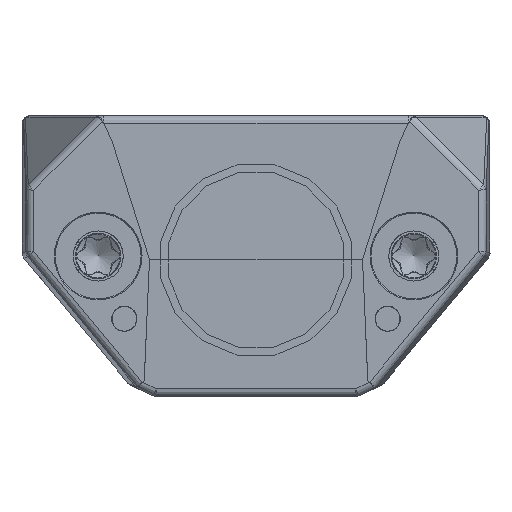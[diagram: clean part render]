
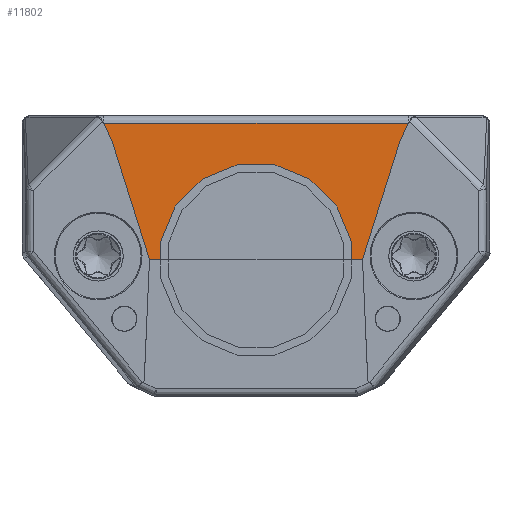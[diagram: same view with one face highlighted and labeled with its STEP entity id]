
A CAD part, front view. The second image highlights one B-rep face of the part: STEP entity #11802.
In plain terms, the highlighted planar face has unit normal (0, -1, 0.009).
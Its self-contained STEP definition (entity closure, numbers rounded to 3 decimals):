
#636=PLANE('',#12568);
#1062=FACE_OUTER_BOUND('',#1718,.T.);
#1718=EDGE_LOOP('',(#8220,#8221,#8222,#8223,#8224,#8225,#8226,#8227,#8228,
#8229,#8230,#8231,#8232,#8233,#8234,#8235));
#2410=LINE('',#21840,#3389);
#2412=LINE('',#21844,#3391);
#2414=LINE('',#21848,#3393);
#2416=LINE('',#21852,#3395);
#2418=LINE('',#21856,#3397);
#2420=LINE('',#21860,#3399);
#2422=LINE('',#21864,#3401);
#2424=LINE('',#21868,#3403);
#2427=LINE('',#21873,#3406);
#2445=LINE('',#21909,#3424);
#2448=LINE('',#21913,#3427);
#2451=LINE('',#21919,#3430);
#2456=LINE('',#21928,#3435);
#2457=LINE('',#21930,#3436);
#2458=LINE('',#21931,#3437);
#2459=LINE('',#21932,#3438);
#3389=VECTOR('',#14000,1.);
#3391=VECTOR('',#14004,1.);
#3393=VECTOR('',#14008,1.);
#3395=VECTOR('',#14012,1.);
#3397=VECTOR('',#14016,1.);
#3399=VECTOR('',#14020,1.);
#3401=VECTOR('',#14024,1.);
#3403=VECTOR('',#14028,1.);
#3406=VECTOR('',#14033,1.);
#3424=VECTOR('',#14067,1.);
#3427=VECTOR('',#14070,1.);
#3430=VECTOR('',#14075,1.);
#3435=VECTOR('',#14082,1.);
#3436=VECTOR('',#14085,1.);
#3437=VECTOR('',#14086,1.);
#3438=VECTOR('',#14087,1.);
#4748=VERTEX_POINT('',#21208);
#4755=VERTEX_POINT('',#21333);
#4867=VERTEX_POINT('',#21837);
#4868=VERTEX_POINT('',#21839);
#4869=VERTEX_POINT('',#21843);
#4870=VERTEX_POINT('',#21847);
#4871=VERTEX_POINT('',#21851);
#4872=VERTEX_POINT('',#21855);
#4873=VERTEX_POINT('',#21859);
#4874=VERTEX_POINT('',#21863);
#4875=VERTEX_POINT('',#21867);
#4876=VERTEX_POINT('',#21871);
#4886=VERTEX_POINT('',#21907);
#4887=VERTEX_POINT('',#21912);
#4889=VERTEX_POINT('',#21918);
#4892=VERTEX_POINT('',#21926);
#6107=EDGE_CURVE('',#4867,#4868,#2410,.T.);
#6109=EDGE_CURVE('',#4868,#4869,#2412,.T.);
#6111=EDGE_CURVE('',#4869,#4870,#2414,.T.);
#6113=EDGE_CURVE('',#4870,#4871,#2416,.T.);
#6115=EDGE_CURVE('',#4871,#4872,#2418,.T.);
#6117=EDGE_CURVE('',#4872,#4873,#2420,.T.);
#6119=EDGE_CURVE('',#4873,#4874,#2422,.T.);
#6121=EDGE_CURVE('',#4874,#4875,#2424,.T.);
#6124=EDGE_CURVE('',#4875,#4876,#2427,.T.);
#6142=EDGE_CURVE('',#4886,#4867,#2445,.T.);
#6145=EDGE_CURVE('',#4876,#4887,#2448,.T.);
#6148=EDGE_CURVE('',#4889,#4748,#2451,.T.);
#6153=EDGE_CURVE('',#4755,#4892,#2456,.T.);
#6154=EDGE_CURVE('',#4892,#4887,#2457,.T.);
#6155=EDGE_CURVE('',#4886,#4889,#2458,.T.);
#6156=EDGE_CURVE('',#4748,#4755,#2459,.T.);
#8220=ORIENTED_EDGE('',*,*,#6153,.T.);
#8221=ORIENTED_EDGE('',*,*,#6154,.T.);
#8222=ORIENTED_EDGE('',*,*,#6145,.F.);
#8223=ORIENTED_EDGE('',*,*,#6124,.F.);
#8224=ORIENTED_EDGE('',*,*,#6121,.F.);
#8225=ORIENTED_EDGE('',*,*,#6119,.F.);
#8226=ORIENTED_EDGE('',*,*,#6117,.F.);
#8227=ORIENTED_EDGE('',*,*,#6115,.F.);
#8228=ORIENTED_EDGE('',*,*,#6113,.F.);
#8229=ORIENTED_EDGE('',*,*,#6111,.F.);
#8230=ORIENTED_EDGE('',*,*,#6109,.F.);
#8231=ORIENTED_EDGE('',*,*,#6107,.F.);
#8232=ORIENTED_EDGE('',*,*,#6142,.F.);
#8233=ORIENTED_EDGE('',*,*,#6155,.T.);
#8234=ORIENTED_EDGE('',*,*,#6148,.T.);
#8235=ORIENTED_EDGE('',*,*,#6156,.T.);
#11802=ADVANCED_FACE('',(#1062),#636,.F.);
#12568=AXIS2_PLACEMENT_3D('',#21929,#14083,#14084);
#14000=DIRECTION('',(-0.009,0.009,1.));
#14004=DIRECTION('',(-0.383,0.008,0.924));
#14008=DIRECTION('',(-0.707,0.006,0.707));
#14012=DIRECTION('',(-0.924,0.003,0.383));
#14016=DIRECTION('',(-1.,0.,0.));
#14020=DIRECTION('',(-0.924,-0.003,-0.383));
#14024=DIRECTION('',(-0.707,-0.006,-0.707));
#14028=DIRECTION('',(-0.383,-0.008,-0.924));
#14033=DIRECTION('',(-0.009,-0.009,-1.));
#14067=DIRECTION('',(-1.,0.,0.));
#14070=DIRECTION('',(-1.,0.,0.));
#14075=DIRECTION('',(0.429,0.008,0.903));
#14082=DIRECTION('',(0.429,-0.008,-0.903));
#14083=DIRECTION('center_axis',(0.,1.,-0.009));
#14084=DIRECTION('ref_axis',(0.,0.009,1.));
#14085=DIRECTION('',(0.301,-0.008,-0.954));
#14086=DIRECTION('',(0.301,0.008,0.954));
#14087=DIRECTION('',(-1.,0.,0.));
#21208=CARTESIAN_POINT('',(9.765,0.076,6.979));
#21333=CARTESIAN_POINT('',(-9.765,0.076,6.979));
#21837=CARTESIAN_POINT('',(5.6,0.,-1.776));
#21839=CARTESIAN_POINT('',(5.59,0.01,-0.638));
#21840=CARTESIAN_POINT('',(5.6,0.,-1.776));
#21843=CARTESIAN_POINT('',(4.747,0.028,1.397));
#21844=CARTESIAN_POINT('',(5.603,0.01,-0.669));
#21847=CARTESIAN_POINT('',(3.172,0.041,2.972));
#21848=CARTESIAN_POINT('',(4.752,0.028,1.392));
#21851=CARTESIAN_POINT('',(1.114,0.049,3.824));
#21852=CARTESIAN_POINT('',(3.175,0.041,2.97));
#21855=CARTESIAN_POINT('',(-1.114,0.049,3.824));
#21856=CARTESIAN_POINT('',(1.114,0.049,3.824));
#21859=CARTESIAN_POINT('',(-3.172,0.041,2.972));
#21860=CARTESIAN_POINT('',(-1.117,0.049,3.823));
#21863=CARTESIAN_POINT('',(-4.747,0.028,1.397));
#21864=CARTESIAN_POINT('',(-3.177,0.041,2.967));
#21867=CARTESIAN_POINT('',(-5.59,0.01,-0.638));
#21868=CARTESIAN_POINT('',(-4.751,0.028,1.389));
#21871=CARTESIAN_POINT('',(-5.6,0.,-1.776));
#21873=CARTESIAN_POINT('',(-5.6,0.,-1.776));
#21907=CARTESIAN_POINT('',(6.828,0.,-1.776));
#21909=CARTESIAN_POINT('',(6.828,0.,-1.776));
#21912=CARTESIAN_POINT('',(-6.828,0.,-1.776));
#21913=CARTESIAN_POINT('',(-5.6,0.,-1.776));
#21918=CARTESIAN_POINT('',(9.238,0.067,5.868));
#21919=CARTESIAN_POINT('',(5.61,0.,-1.78));
#21926=CARTESIAN_POINT('',(-9.238,0.067,5.868));
#21928=CARTESIAN_POINT('',(-3.553,-0.038,-6.117));
#21929=CARTESIAN_POINT('Origin',(5.6,0.,-1.776));
#21930=CARTESIAN_POINT('',(-5.704,-0.031,-5.34));
#21931=CARTESIAN_POINT('',(6.717,-0.003,-2.128));
#21932=CARTESIAN_POINT('',(5.6,0.076,6.979));
